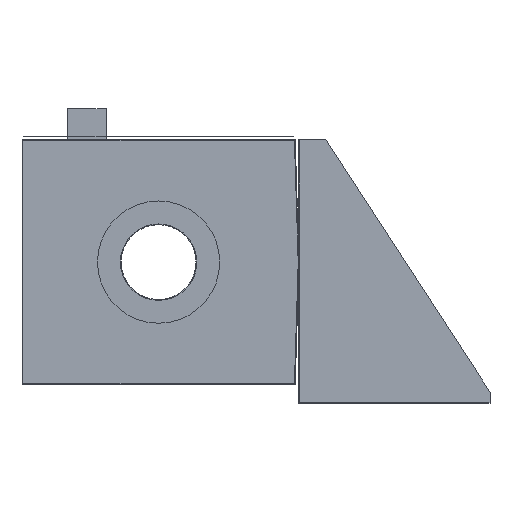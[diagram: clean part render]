
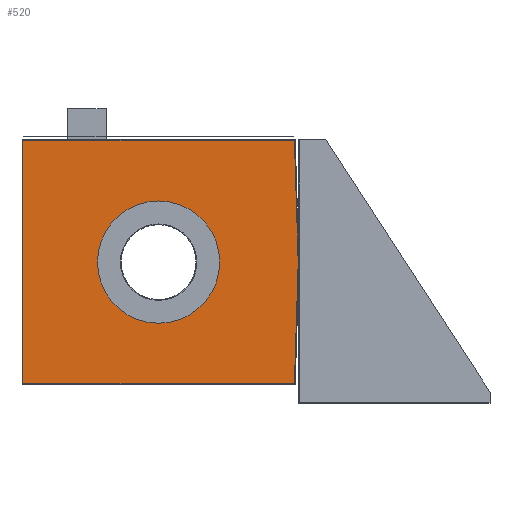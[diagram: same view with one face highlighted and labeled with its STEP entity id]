
A CAD part, left-side view. The second image highlights one B-rep face of the part: STEP entity #520.
In plain terms, the highlighted planar face has unit normal (-1, 0, 0).
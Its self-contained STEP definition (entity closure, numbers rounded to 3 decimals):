
#165=CARTESIAN_POINT('',(-260.,0.,0.));
#166=DIRECTION('',(1.,0.,0.));
#167=DIRECTION('',(0.,0.,-1.));
#168=AXIS2_PLACEMENT_3D('',#165,#166,#167);
#170=CARTESIAN_POINT('',(-260.,0.,0.));
#171=DIRECTION('',(1.,0.,0.));
#172=DIRECTION('',(0.,0.,1.));
#173=AXIS2_PLACEMENT_3D('',#170,#171,#172);
#175=DIRECTION('',(0.,0.,1.));
#176=VECTOR('',#175,640.);
#177=CARTESIAN_POINT('',(-260.,357.5,-320.));
#178=LINE('',#177,#176);
#179=DIRECTION('',(0.,-1.,0.));
#180=VECTOR('',#179,715.);
#181=CARTESIAN_POINT('',(-260.,357.5,320.));
#182=LINE('',#181,#180);
#183=DIRECTION('',(0.,-0.031,-1.));
#184=VECTOR('',#183,320.156);
#185=CARTESIAN_POINT('',(-260.,-357.5,320.));
#186=LINE('',#185,#184);
#187=DIRECTION('',(0.,0.031,-1.));
#188=VECTOR('',#187,320.156);
#189=CARTESIAN_POINT('',(-260.,-367.5,0.));
#190=LINE('',#189,#188);
#191=DIRECTION('',(0.,1.,0.));
#192=VECTOR('',#191,715.);
#193=CARTESIAN_POINT('',(-260.,-357.5,-320.));
#194=LINE('',#193,#192);
#337=CARTESIAN_POINT('',(-260.,357.5,-320.));
#338=CARTESIAN_POINT('',(-260.,357.5,320.));
#339=VERTEX_POINT('',#337);
#340=VERTEX_POINT('',#338);
#341=CARTESIAN_POINT('',(-260.,-357.5,320.));
#342=VERTEX_POINT('',#341);
#343=CARTESIAN_POINT('',(-260.,-367.5,0.));
#344=VERTEX_POINT('',#343);
#345=CARTESIAN_POINT('',(-260.,-357.5,-320.));
#346=VERTEX_POINT('',#345);
#375=CARTESIAN_POINT('',(-260.,0.,-100.));
#376=CARTESIAN_POINT('',(-260.,0.,100.));
#377=VERTEX_POINT('',#375);
#378=VERTEX_POINT('',#376);
#498=CARTESIAN_POINT('',(-260.,0.,0.));
#499=DIRECTION('',(1.,0.,0.));
#500=DIRECTION('',(0.,0.,-1.));
#501=AXIS2_PLACEMENT_3D('',#498,#499,#500);
#502=PLANE('',#501);
#503=ORIENTED_EDGE('',*,*,#488,.T.);
#505=ORIENTED_EDGE('',*,*,#504,.T.);
#507=ORIENTED_EDGE('',*,*,#506,.T.);
#509=ORIENTED_EDGE('',*,*,#508,.T.);
#511=ORIENTED_EDGE('',*,*,#510,.T.);
#512=EDGE_LOOP('',(#503,#505,#507,#509,#511));
#513=FACE_OUTER_BOUND('',#512,.F.);
#515=ORIENTED_EDGE('',*,*,#514,.F.);
#517=ORIENTED_EDGE('',*,*,#516,.F.);
#518=EDGE_LOOP('',(#515,#517));
#519=FACE_BOUND('',#518,.F.);
#169=CIRCLE('',#168,100.);
#174=CIRCLE('',#173,100.);
#488=EDGE_CURVE('',#339,#340,#178,.T.);
#504=EDGE_CURVE('',#340,#342,#182,.T.);
#506=EDGE_CURVE('',#342,#344,#186,.T.);
#508=EDGE_CURVE('',#344,#346,#190,.T.);
#510=EDGE_CURVE('',#346,#339,#194,.T.);
#514=EDGE_CURVE('',#377,#378,#169,.T.);
#516=EDGE_CURVE('',#378,#377,#174,.T.);
#520=ADVANCED_FACE('',(#513,#519),#502,.F.);
